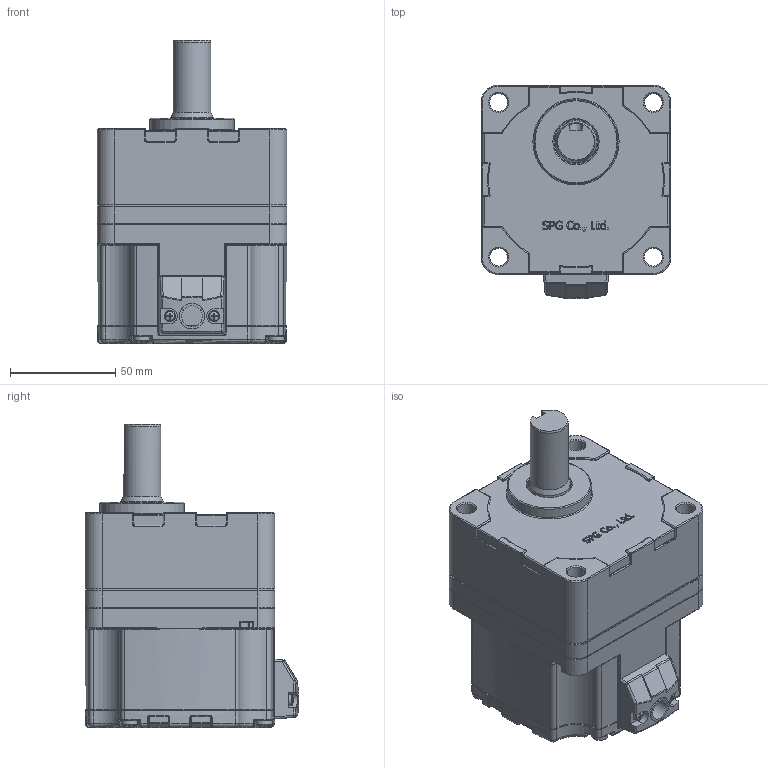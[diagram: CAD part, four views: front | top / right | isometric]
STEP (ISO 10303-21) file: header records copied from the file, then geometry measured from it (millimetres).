
FILE_DESCRIPTION((''),'2;1');
FILE_NAME('C:\Documents and Settings\Administrator\바탕 화면\BLDC 3D FILE\GEARED MOTOR\90-RATIO 5~20.stp','2014-06-19T16:08:22',('kdhkdh'),(''),'Autodesk Inventor 2011','Autodesk Inventor 2011','');
FILE_SCHEMA(('AUTOMOTIVE_DESIGN { 1 0 10303 214 1 1 1 1 }'));
Length unit declared in the file: millimetre
Products named in the file (1): 부품1
Bounding box: 90 x 101.5 x 144 mm (x, y, z)
Volume: 754308.3 mm3; surface area: 90960.2 mm2
Topology: 1 solids, 19 shells, 1336 faces, 3320 edges, 1967 vertices
Faces by surface type: cylinder 409, plane 386, bspline 215, torus 164, cone 104, sphere 58
Full cylindrical faces by diameter (mm): 2.729 x2, 3 x6, 3.5 x2, 3.621 x4, 4 x12, 4.5 x4, 5 x4, 5.3 x2, 7.62 x1, 7.64 x4, 8 x4, 8.5 x12, 9 x1, 10 x1, 12 x2, 18 x1, 20 x1, 21 x1, 22 x1, 40 x1, 70 x1, 83 x3, 86 x2
Entity records: 42684 total; most frequent: CARTESIAN_POINT 13184, ORIENTED_EDGE 6050, DIRECTION 5973, EDGE_CURVE 3025, AXIS2_PLACEMENT_3D 2400, VERTEX_POINT 1899, EDGE_LOOP 1542, FACE_OUTER_BOUND 1336
